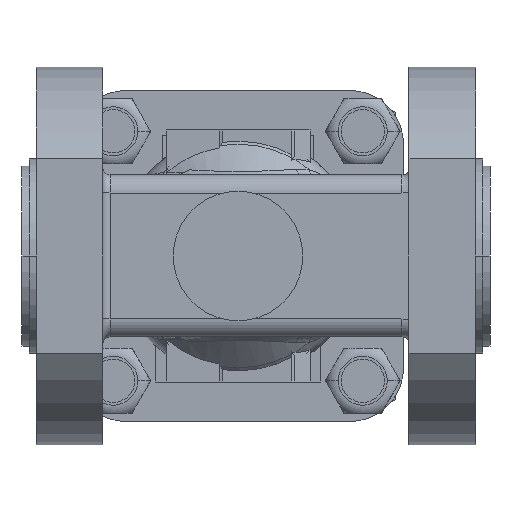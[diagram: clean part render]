
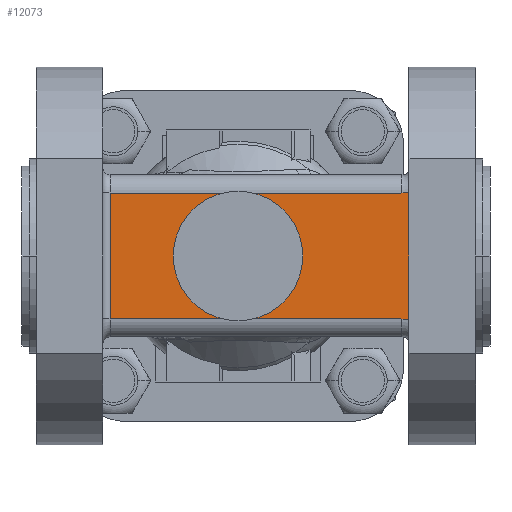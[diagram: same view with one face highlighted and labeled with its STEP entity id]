
A CAD part, front view. The second image highlights one B-rep face of the part: STEP entity #12073.
In plain terms, the highlighted planar face has unit normal (0, -1, 0).
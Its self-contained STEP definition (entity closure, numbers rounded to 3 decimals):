
#2627=DIRECTION('',(0.,0.,1.));
#2628=VECTOR('',#2627,35.584);
#2629=CARTESIAN_POINT('',(47.5,-16.5,-17.792));
#2630=LINE('',#2629,#2628);
#3278=DIRECTION('',(1.,0.,0.));
#3279=VECTOR('',#3278,81.);
#3280=CARTESIAN_POINT('',(-35.5,-16.5,17.5));
#3281=LINE('',#3280,#3279);
#3282=CARTESIAN_POINT('',(45.5,-16.5,24.5));
#3283=DIRECTION('',(0.,-1.,0.));
#3284=DIRECTION('',(0.,0.,-1.));
#3285=AXIS2_PLACEMENT_3D('',#3282,#3283,#3284);
#3287=CARTESIAN_POINT('',(45.5,-16.5,-24.5));
#3288=DIRECTION('',(0.,1.,0.));
#3289=DIRECTION('',(0.,0.,1.));
#3290=AXIS2_PLACEMENT_3D('',#3287,#3288,#3289);
#3292=DIRECTION('',(-1.,0.,0.));
#3293=VECTOR('',#3292,81.);
#3294=CARTESIAN_POINT('',(45.5,-16.5,-17.5));
#3295=LINE('',#3294,#3293);
#3296=DIRECTION('',(0.,0.,-1.));
#3297=VECTOR('',#3296,35.);
#3298=CARTESIAN_POINT('',(-35.5,-16.5,17.5));
#3299=LINE('',#3298,#3297);
#3300=CARTESIAN_POINT('',(0.,-16.5,0.));
#3301=DIRECTION('',(0.,-1.,0.));
#3302=DIRECTION('',(-1.,0.,0.));
#3303=AXIS2_PLACEMENT_3D('',#3300,#3301,#3302);
#3305=CARTESIAN_POINT('',(0.,-16.5,0.));
#3306=DIRECTION('',(0.,-1.,0.));
#3307=DIRECTION('',(1.,0.,0.));
#3308=AXIS2_PLACEMENT_3D('',#3305,#3306,#3307);
#7334=CARTESIAN_POINT('',(-16.,-16.5,0.));
#7335=CARTESIAN_POINT('',(16.,-16.5,0.));
#7336=VERTEX_POINT('',#7334);
#7337=VERTEX_POINT('',#7335);
#7575=CARTESIAN_POINT('',(-35.5,-16.5,17.5));
#7576=CARTESIAN_POINT('',(45.5,-16.5,17.5));
#7577=VERTEX_POINT('',#7575);
#7578=VERTEX_POINT('',#7576);
#7597=CARTESIAN_POINT('',(45.5,-16.5,-17.5));
#7598=CARTESIAN_POINT('',(-35.5,-16.5,-17.5));
#7599=VERTEX_POINT('',#7597);
#7600=VERTEX_POINT('',#7598);
#7611=CARTESIAN_POINT('',(47.5,-16.5,-17.792));
#7612=VERTEX_POINT('',#7611);
#7615=CARTESIAN_POINT('',(47.5,-16.5,17.792));
#7616=VERTEX_POINT('',#7615);
#12050=CARTESIAN_POINT('',(-37.5,-16.5,-22.5));
#12051=DIRECTION('',(0.,-1.,0.));
#12052=DIRECTION('',(1.,0.,0.));
#12053=AXIS2_PLACEMENT_3D('',#12050,#12051,#12052);
#12054=PLANE('',#12053);
#12056=ORIENTED_EDGE('',*,*,#12055,.T.);
#12058=ORIENTED_EDGE('',*,*,#12057,.T.);
#12059=ORIENTED_EDGE('',*,*,#11206,.F.);
#12061=ORIENTED_EDGE('',*,*,#12060,.F.);
#12063=ORIENTED_EDGE('',*,*,#12062,.T.);
#12064=ORIENTED_EDGE('',*,*,#12041,.F.);
#12065=EDGE_LOOP('',(#12056,#12058,#12059,#12061,#12063,#12064));
#12066=FACE_OUTER_BOUND('',#12065,.F.);
#12068=ORIENTED_EDGE('',*,*,#12067,.T.);
#12070=ORIENTED_EDGE('',*,*,#12069,.T.);
#12071=EDGE_LOOP('',(#12068,#12070));
#12072=FACE_BOUND('',#12071,.F.);
#12073=ADVANCED_FACE('',(#12066,#12072),#12054,.T.);
#3286=CIRCLE('',#3285,7.);
#3291=CIRCLE('',#3290,7.);
#3304=CIRCLE('',#3303,16.);
#3309=CIRCLE('',#3308,16.);
#11206=EDGE_CURVE('',#7612,#7616,#2630,.T.);
#12041=EDGE_CURVE('',#7577,#7600,#3299,.T.);
#12055=EDGE_CURVE('',#7577,#7578,#3281,.T.);
#12057=EDGE_CURVE('',#7578,#7616,#3286,.T.);
#12060=EDGE_CURVE('',#7599,#7612,#3291,.T.);
#12062=EDGE_CURVE('',#7599,#7600,#3295,.T.);
#12067=EDGE_CURVE('',#7336,#7337,#3304,.T.);
#12069=EDGE_CURVE('',#7337,#7336,#3309,.T.);
